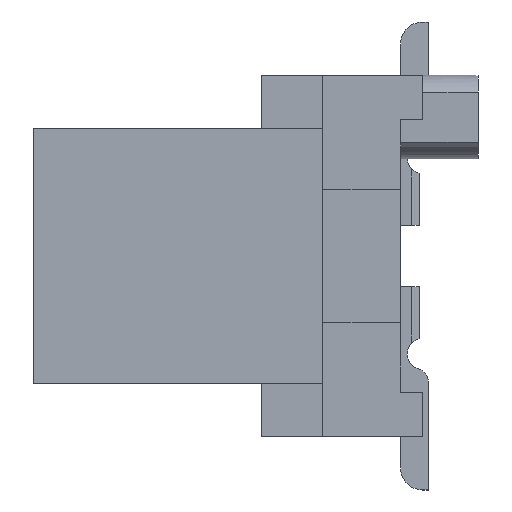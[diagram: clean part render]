
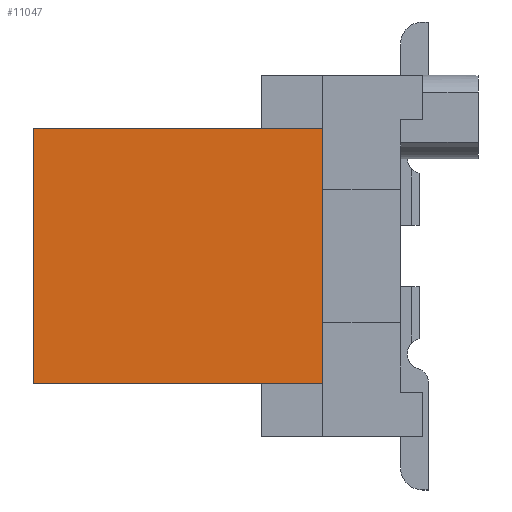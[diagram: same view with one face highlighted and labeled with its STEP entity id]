
A CAD part, left-side view. The second image highlights one B-rep face of the part: STEP entity #11047.
In plain terms, the highlighted planar face has unit normal (-1, 0, 0).
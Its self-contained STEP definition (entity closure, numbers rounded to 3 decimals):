
#864 = EDGE_CURVE ( 'NONE', #53321, #37421, #38064, .T. ) ;
#912 = LINE ( 'NONE', #39468, #16673 ) ;
#3884 = EDGE_LOOP ( 'NONE', ( #30748, #28017, #11594, #13340 ) ) ;
#11047 = ADVANCED_FACE ( 'NONE', ( #47329 ), #52289, .T. ) ;
#11594 = ORIENTED_EDGE ( 'NONE', *, *, #43771, .F. ) ;
#12138 = VECTOR ( 'NONE', #36092, 1000. ) ;
#13340 = ORIENTED_EDGE ( 'NONE', *, *, #864, .T. ) ;
#14548 = VECTOR ( 'NONE', #45507, 1000. ) ;
#16673 = VECTOR ( 'NONE', #43876, 1000. ) ;
#17896 = VERTEX_POINT ( 'NONE', #47900 ) ;
#18116 = CARTESIAN_POINT ( 'NONE',  ( 1.944, -1.079, -0.475 ) ) ;
#18120 = CARTESIAN_POINT ( 'NONE',  ( 1.944, -0.529, -2.775 ) ) ;
#19115 = EDGE_CURVE ( 'NONE', #43489, #37421, #912, .T. ) ;
#22761 = VECTOR ( 'NONE', #40668, 1000. ) ;
#22879 = LINE ( 'NONE', #52897, #12138 ) ;
#23866 = CARTESIAN_POINT ( 'NONE',  ( 1.944, -0.529, -2.775 ) ) ;
#28017 = ORIENTED_EDGE ( 'NONE', *, *, #32009, .F. ) ;
#29995 = DIRECTION ( 'NONE',  ( -1., 0., 0. ) ) ;
#30537 = DIRECTION ( 'NONE',  ( 0., 0., 1. ) ) ;
#30748 = ORIENTED_EDGE ( 'NONE', *, *, #19115, .F. ) ;
#32009 = EDGE_CURVE ( 'NONE', #17896, #43489, #40391, .T. ) ;
#36092 = DIRECTION ( 'NONE',  ( 0., 0., -1. ) ) ;
#37421 = VERTEX_POINT ( 'NONE', #52710 ) ;
#38064 = LINE ( 'NONE', #46060, #14548 ) ;
#39468 = CARTESIAN_POINT ( 'NONE',  ( 1.944, 1.521, -2.775 ) ) ;
#40391 = LINE ( 'NONE', #23866, #22761 ) ;
#40668 = DIRECTION ( 'NONE',  ( 0., 1., 0. ) ) ;
#41600 = AXIS2_PLACEMENT_3D ( 'NONE', #18120, #29995, #30537 ) ;
#41717 = CARTESIAN_POINT ( 'NONE',  ( 1.944, 1.521, -2.775 ) ) ;
#43489 = VERTEX_POINT ( 'NONE', #41717 ) ;
#43771 = EDGE_CURVE ( 'NONE', #53321, #17896, #22879, .T. ) ;
#43876 = DIRECTION ( 'NONE',  ( 0., 0., 1. ) ) ;
#45507 = DIRECTION ( 'NONE',  ( 0., 1., 0. ) ) ;
#46060 = CARTESIAN_POINT ( 'NONE',  ( 1.944, -0.529, -0.475 ) ) ;
#47329 = FACE_OUTER_BOUND ( 'NONE', #3884, .T. ) ;
#47900 = CARTESIAN_POINT ( 'NONE',  ( 1.944, -1.079, -2.775 ) ) ;
#52289 = PLANE ( 'NONE',  #41600 ) ;
#52710 = CARTESIAN_POINT ( 'NONE',  ( 1.944, 1.521, -0.475 ) ) ;
#52897 = CARTESIAN_POINT ( 'NONE',  ( 1.944, -1.079, -2.775 ) ) ;
#53321 = VERTEX_POINT ( 'NONE', #18116 ) ;
